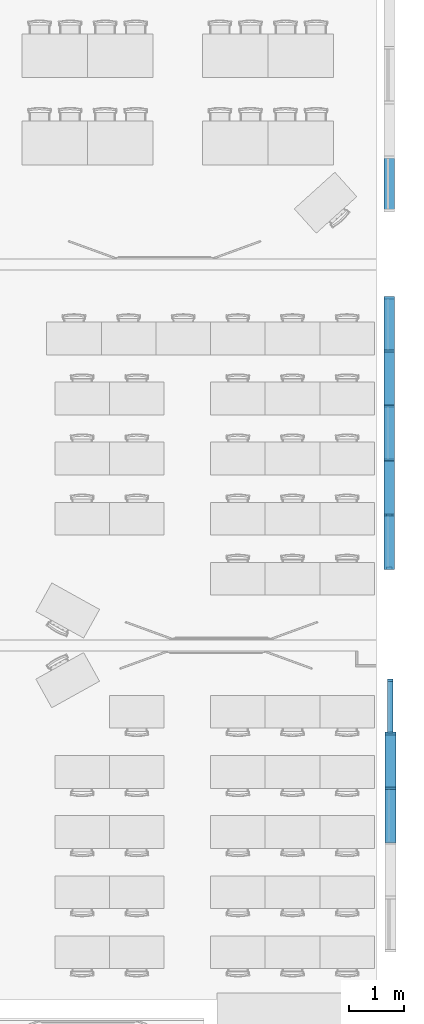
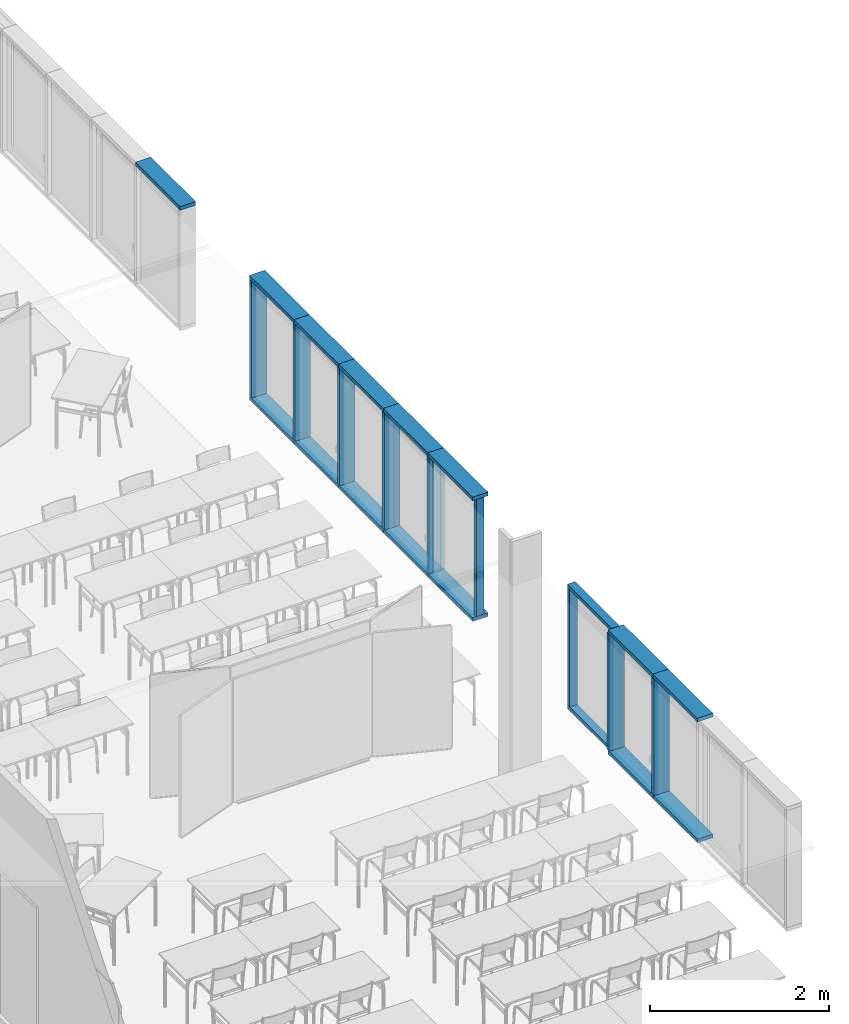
# One storey, part 9 of 44: 60 members, 6 elements without a shape of their own.
"""IFC2X3 building model written with IfcOpenShell, lengths in centimetres."""

from ifc_helpers import new_model, entity, si_unit, converted_unit, derived_unit, direction, frame, frame_2d, origin, origin_2d_with_axis, place, context, subcontext, project, spatial, rectangle, extrude, material, type_object, element, aggregate, save


model = new_model("IFC2X3")

# Units and contexts
model_context = context("Model", 3, precision=0.001, world=origin(), true_north=direction((6.12303176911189e-17, 1.0)))
body_context = subcontext(model_context, "Body", "Model", "MODEL_VIEW")
ifc_project = project(units=[si_unit("LENGTHUNIT", "METRE", prefix="CENTI"), si_unit("AREAUNIT", "SQUARE_METRE"), si_unit("VOLUMEUNIT", "CUBIC_METRE"), converted_unit("PLANEANGLEUNIT", "DEGREE", entity("IfcRatioMeasure", 0.0174532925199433), si_unit("PLANEANGLEUNIT", "RADIAN"), dimensions=[0, 0, 0, 0, 0, 0, 0]), si_unit("MASSUNIT", "GRAM", prefix="KILO"), si_unit("TIMEUNIT", "SECOND"), si_unit("FREQUENCYUNIT", "HERTZ"), si_unit("THERMODYNAMICTEMPERATUREUNIT", "DEGREE_CELSIUS"), derived_unit("THERMALTRANSMITTANCEUNIT", [(si_unit("MASSUNIT", "GRAM", prefix="KILO"), 1), (si_unit("THERMODYNAMICTEMPERATUREUNIT", "KELVIN"), -1), (si_unit("TIMEUNIT", "SECOND"), -3)]), derived_unit("VOLUMETRICFLOWRATEUNIT", [(si_unit("LENGTHUNIT", "METRE"), 3), (si_unit("TIMEUNIT", "SECOND"), -1)]), si_unit("ELECTRICCURRENTUNIT", "AMPERE"), si_unit("ELECTRICVOLTAGEUNIT", "VOLT"), si_unit("POWERUNIT", "WATT"), si_unit("FORCEUNIT", "NEWTON", prefix="KILO"), si_unit("ILLUMINANCEUNIT", "LUX"), si_unit("LUMINOUSFLUXUNIT", "LUMEN"), si_unit("LUMINOUSINTENSITYUNIT", "CANDELA"), derived_unit("USERDEFINED", [(si_unit("MASSUNIT", "GRAM", prefix="KILO"), -1), (si_unit("LENGTHUNIT", "METRE"), -2), (si_unit("TIMEUNIT", "SECOND"), 3), (si_unit("LUMINOUSFLUXUNIT", "LUMEN"), 1)]), derived_unit("LINEARVELOCITYUNIT", [(si_unit("LENGTHUNIT", "METRE"), 1), (si_unit("TIMEUNIT", "SECOND"), -1)]), si_unit("PRESSUREUNIT", "PASCAL"), derived_unit("USERDEFINED", [(si_unit("LENGTHUNIT", "METRE"), -2), (si_unit("MASSUNIT", "GRAM", prefix="KILO"), 1), (si_unit("TIMEUNIT", "SECOND"), -2)])], contexts=[model_context])

# Site, building, storey
site_placement = place(None, frame((8.62739174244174, -249.285249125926, 0.0)))
site = spatial("IfcSite", under=ifc_project, at=site_placement, Name="Default", CompositionType="ELEMENT")
building_placement = place(site_placement, origin())
building = spatial("IfcBuilding", under=site, at=building_placement, CompositionType="ELEMENT")
storey_placement = place(building_placement, frame((0.0, 0.0, 343.0)))
storey = spatial("IfcBuildingStorey", under=building, at=storey_placement, Name="R+1", CompositionType="ELEMENT", Elevation=343.0)

# Curtain wall, member
curtain_wall_type = type_object("IfcCurtainWallType", Name="Mur-rideau:Simple panneau", PredefinedType="NOTDEFINED")
curtain_wall_1_placement = place(storey_placement, frame((0.0, 0.0, -343.0)))
curtain_wall_1 = element("IfcCurtainWall", 1, at=curtain_wall_1_placement, inside=storey, type_object=curtain_wall_type, Name="Mur-rideau:Simple panneau", ObjectType="Mur-rideau:Simple panneau")
ifc_material = material(Name="Plastique, blanc opaque")
member_1_placement = place(curtain_wall_1_placement, frame((0.0, 0.0, 343.0)))
member_1 = element("IfcMember", 2, at=member_1_placement, material=ifc_material, Name="Mur-rideau:Simple panneau", ObjectType="Mur-rideau:Simple panneau", context=body_context, shape_type="SweptSolid", body=[
    extrude(rectangle(XDim=4.99999999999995, YDim=20.0000000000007, at=origin_2d_with_axis()), frame((4001.90482776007, 4096.58270074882, 275.499999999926), z_axis=(0.0, 1.0, 0.0), x_axis=(0.0, 0.0, -1.0)), (0.0, 0.0, 1.0), 100.000000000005),
])
aggregate(curtain_wall_1, [member_1])

# Curtain wall, members
curtain_wall_2_placement = place(storey_placement, frame((0.0, 0.0, -343.0)))
curtain_wall_2 = element("IfcCurtainWall", 3, at=curtain_wall_2_placement, inside=storey, type_object=curtain_wall_type, Name="Mur-rideau:Simple panneau", ObjectType="Mur-rideau:Simple panneau")
member_2_placement = place(curtain_wall_2_placement, frame((0.0, 0.0, 343.0)))
member_2 = element("IfcMember", 4, at=member_2_placement, material=ifc_material, Name="Mur-rideau:Simple panneau", ObjectType="Mur-rideau:Simple panneau", context=body_context, shape_type="SweptSolid", body=[
    extrude(rectangle(XDim=9.99999999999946, YDim=5.00000000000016, at=frame_2d((0.0, 2.16715534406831e-13), x_axis=(1.0, 0.0))), frame((4003.90482781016, 3239.18519336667, 273.0), z_axis=(0.0, 0.0, -1.0), x_axis=(-1.0, 0.0, 0.0)), (0.0, 0.0, 1.0), 160.0),
])
member_3_placement = place(curtain_wall_2_placement, frame((0.0, 0.0, 343.0)))
member_3 = element("IfcMember", 5, at=member_3_placement, material=ifc_material, Name="Mur-rideau:Simple panneau", ObjectType="Mur-rideau:Simple panneau", context=body_context, shape_type="SweptSolid", body=[
    extrude(rectangle(XDim=5.0, YDim=9.99999999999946, at=frame_2d((-2.70894418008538e-14, 0.0), x_axis=(1.0, 0.0))), frame((4003.90482781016, 3241.68519336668, 110.499999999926), z_axis=(0.0, -1.0, 0.0), x_axis=(0.0, 0.0, -1.0)), (0.0, 0.0, 1.0), 99.9999999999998),
])
member_4_placement = place(curtain_wall_2_placement, frame((0.0, 0.0, 343.0)))
member_4 = element("IfcMember", 6, at=member_4_placement, material=ifc_material, Name="Mur-rideau:Simple panneau", ObjectType="Mur-rideau:Simple panneau", context=body_context, shape_type="SweptSolid", body=[
    extrude(rectangle(XDim=20.0000000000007, YDim=4.99999999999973, at=origin_2d_with_axis()), frame((4003.90482781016, 3041.68519336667, 113.0), z_axis=(0.0, 0.0, 1.0), x_axis=(-1.0, 0.0, 0.0)), (0.0, 0.0, 1.0), 160.0),
])
member_5_placement = place(curtain_wall_2_placement, frame((0.0, 0.0, 343.0)))
member_5 = element("IfcMember", 7, at=member_5_placement, material=ifc_material, Name="Mur-rideau:Simple panneau", ObjectType="Mur-rideau:Simple panneau", context=body_context, shape_type="SweptSolid", body=[
    extrude(rectangle(XDim=20.0000000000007, YDim=4.99999999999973, at=origin_2d_with_axis()), frame((4003.90482781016, 3141.68519336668, 113.0), z_axis=(0.0, 0.0, 1.0), x_axis=(-1.0, 0.0, 0.0)), (0.0, 0.0, 1.0), 160.0),
])
member_6_placement = place(curtain_wall_2_placement, frame((0.0, 0.0, 343.0)))
member_6 = element("IfcMember", 8, at=member_6_placement, material=ifc_material, Name="Mur-rideau:Simple panneau", ObjectType="Mur-rideau:Simple panneau", context=body_context, shape_type="SweptSolid", body=[
    extrude(rectangle(XDim=5.0, YDim=20.0000000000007, at=frame_2d((-2.70894418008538e-14, 0.0), x_axis=(1.0, 0.0))), frame((4003.90482781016, 3041.68519336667, 110.499999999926), z_axis=(0.0, -1.0, 0.0), x_axis=(0.0, 0.0, -1.0)), (0.0, 0.0, 1.0), 100.0),
])
member_7_placement = place(curtain_wall_2_placement, frame((0.0, 0.0, 343.0)))
member_7 = element("IfcMember", 9, at=member_7_placement, material=ifc_material, Name="Mur-rideau:Simple panneau", ObjectType="Mur-rideau:Simple panneau", context=body_context, shape_type="SweptSolid", body=[
    extrude(rectangle(XDim=5.0, YDim=20.0000000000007, at=frame_2d((-2.70894418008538e-14, 0.0), x_axis=(1.0, 0.0))), frame((4003.90482781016, 3141.68519336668, 110.499999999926), z_axis=(0.0, -1.0, 0.0), x_axis=(0.0, 0.0, -1.0)), (0.0, 0.0, 1.0), 99.9999999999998),
])
member_8_placement = place(curtain_wall_2_placement, frame((0.0, 0.0, 343.0)))
member_8 = element("IfcMember", 10, at=member_8_placement, material=ifc_material, Name="Mur-rideau:Simple panneau", ObjectType="Mur-rideau:Simple panneau", context=body_context, shape_type="SweptSolid", body=[
    extrude(rectangle(XDim=4.99999999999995, YDim=20.0000000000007, at=origin_2d_with_axis()), frame((4003.90482781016, 2941.68519336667, 275.499999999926), z_axis=(0.0, 1.0, 0.0), x_axis=(0.0, 0.0, -1.0)), (0.0, 0.0, 1.0), 100.0),
])
member_9_placement = place(curtain_wall_2_placement, frame((0.0, 0.0, 343.0)))
member_9 = element("IfcMember", 11, at=member_9_placement, material=ifc_material, Name="Mur-rideau:Simple panneau", ObjectType="Mur-rideau:Simple panneau", context=body_context, shape_type="SweptSolid", body=[
    extrude(rectangle(XDim=4.99999999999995, YDim=20.0000000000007, at=origin_2d_with_axis()), frame((4003.90482781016, 3041.68519336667, 275.499999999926), z_axis=(0.0, 1.0, 0.0), x_axis=(0.0, 0.0, -1.0)), (0.0, 0.0, 1.0), 99.9999999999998),
])
member_10_placement = place(curtain_wall_2_placement, frame((0.0, 0.0, 343.0)))
member_10 = element("IfcMember", 12, at=member_10_placement, material=ifc_material, Name="Mur-rideau:Simple panneau", ObjectType="Mur-rideau:Simple panneau", context=body_context, shape_type="SweptSolid", body=[
    extrude(rectangle(XDim=4.99999999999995, YDim=9.99999999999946, at=origin_2d_with_axis()), frame((4003.90482781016, 3141.68519336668, 275.499999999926), z_axis=(0.0, 1.0, 0.0), x_axis=(0.0, 0.0, -1.0)), (0.0, 0.0, 1.0), 99.9999999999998),
])
aggregate(curtain_wall_2, [member_2, member_3, member_4, member_5, member_6, member_7, member_8, member_9, member_10])

curtain_wall_3_placement = place(storey_placement, frame((0.0, 0.0, -343.0)))
curtain_wall_3 = element("IfcCurtainWall", 13, at=curtain_wall_3_placement, inside=storey, type_object=curtain_wall_type, Name="Mur-rideau:Simple panneau", ObjectType="Mur-rideau:Simple panneau")
member_11_placement = place(curtain_wall_3_placement, frame((0.0, 0.0, 343.0)))
member_11 = element("IfcMember", 14, at=member_11_placement, material=ifc_material, Name="Mur-rideau:Simple panneau", ObjectType="Mur-rideau:Simple panneau", context=body_context, shape_type="SweptSolid", body=[
    extrude(rectangle(XDim=20.0000000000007, YDim=4.99999999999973, at=frame_2d((0.0, -4.33209024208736e-13), x_axis=(1.0, 0.0))), frame((4001.90482776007, 3939.18519336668, 273.0), z_axis=(0.0, 0.0, -1.0), x_axis=(-1.0, 0.0, 0.0)), (0.0, 0.0, 1.0), 160.0),
])
member_12_placement = place(curtain_wall_3_placement, frame((0.0, 0.0, 343.0)))
member_12 = element("IfcMember", 15, at=member_12_placement, material=ifc_material, Name="Mur-rideau:Simple panneau", ObjectType="Mur-rideau:Simple panneau", context=body_context, shape_type="SweptSolid", body=[
    extrude(rectangle(XDim=4.99999999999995, YDim=20.0000000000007, at=origin_2d_with_axis()), frame((4001.90482776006, 3441.68519336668, 275.499999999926), z_axis=(0.0, 1.0, 0.0), x_axis=(0.0, 0.0, -1.0)), (0.0, 0.0, 1.0), 100.000000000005),
])
member_13_placement = place(curtain_wall_3_placement, frame((0.0, 0.0, 343.0)))
member_13 = element("IfcMember", 16, at=member_13_placement, material=ifc_material, Name="Mur-rideau:Simple panneau", ObjectType="Mur-rideau:Simple panneau", context=body_context, shape_type="SweptSolid", body=[
    extrude(rectangle(XDim=9.99999999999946, YDim=5.00000000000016, at=frame_2d((0.0, 2.16715534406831e-13), x_axis=(1.0, 0.0))), frame((4001.90482776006, 3444.18519336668, 113.0), z_axis=(0.0, 0.0, 1.0), x_axis=(-1.0, 0.0, 0.0)), (0.0, 0.0, 1.0), 160.0),
])
member_14_placement = place(curtain_wall_3_placement, frame((0.0, 0.0, 343.0)))
member_14 = element("IfcMember", 17, at=member_14_placement, material=ifc_material, Name="Mur-rideau:Simple panneau", ObjectType="Mur-rideau:Simple panneau", context=body_context, shape_type="SweptSolid", body=[
    extrude(rectangle(XDim=5.0, YDim=20.0000000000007, at=frame_2d((-2.70894418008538e-14, 0.0), x_axis=(1.0, 0.0))), frame((4001.90482776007, 3941.68519336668, 110.499999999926), z_axis=(0.0, -1.0, 0.0), x_axis=(0.0, 0.0, -1.0)), (0.0, 0.0, 1.0), 99.9999999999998),
])
member_15_placement = place(curtain_wall_3_placement, frame((0.0, 0.0, 343.0)))
member_15 = element("IfcMember", 18, at=member_15_placement, material=ifc_material, Name="Mur-rideau:Simple panneau", ObjectType="Mur-rideau:Simple panneau", context=body_context, shape_type="SweptSolid", body=[
    extrude(rectangle(XDim=9.99999999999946, YDim=4.99999999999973, at=origin_2d_with_axis()), frame((4001.90482776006, 3541.68519336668, 113.0), z_axis=(0.0, 0.0, 1.0), x_axis=(-1.0, 0.0, 0.0)), (0.0, 0.0, 1.0), 160.0),
])
member_16_placement = place(curtain_wall_3_placement, frame((0.0, 0.0, 343.0)))
member_16 = element("IfcMember", 19, at=member_16_placement, material=ifc_material, Name="Mur-rideau:Simple panneau", ObjectType="Mur-rideau:Simple panneau", context=body_context, shape_type="SweptSolid", body=[
    extrude(rectangle(XDim=20.0000000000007, YDim=4.99999999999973, at=origin_2d_with_axis()), frame((4001.90482776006, 3641.68519336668, 113.0), z_axis=(0.0, 0.0, 1.0), x_axis=(-1.0, 0.0, 0.0)), (0.0, 0.0, 1.0), 160.0),
])
member_17_placement = place(curtain_wall_3_placement, frame((0.0, 0.0, 343.0)))
member_17 = element("IfcMember", 20, at=member_17_placement, material=ifc_material, Name="Mur-rideau:Simple panneau", ObjectType="Mur-rideau:Simple panneau", context=body_context, shape_type="SweptSolid", body=[
    extrude(rectangle(XDim=20.0000000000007, YDim=4.99999999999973, at=origin_2d_with_axis()), frame((4001.90482776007, 3741.68519336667, 113.0), z_axis=(0.0, 0.0, 1.0), x_axis=(-1.0, 0.0, 0.0)), (0.0, 0.0, 1.0), 160.0),
])
member_18_placement = place(curtain_wall_3_placement, frame((0.0, 0.0, 343.0)))
member_18 = element("IfcMember", 21, at=member_18_placement, material=ifc_material, Name="Mur-rideau:Simple panneau", ObjectType="Mur-rideau:Simple panneau", context=body_context, shape_type="SweptSolid", body=[
    extrude(rectangle(XDim=20.0000000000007, YDim=4.99999999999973, at=origin_2d_with_axis()), frame((4001.90482776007, 3841.68519336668, 113.0), z_axis=(0.0, 0.0, 1.0), x_axis=(-1.0, 0.0, 0.0)), (0.0, 0.0, 1.0), 160.0),
])
member_19_placement = place(curtain_wall_3_placement, frame((0.0, 0.0, 343.0)))
member_19 = element("IfcMember", 22, at=member_19_placement, material=ifc_material, Name="Mur-rideau:Simple panneau", ObjectType="Mur-rideau:Simple panneau", context=body_context, shape_type="SweptSolid", body=[
    extrude(rectangle(XDim=5.0, YDim=20.0000000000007, at=frame_2d((-2.70894418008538e-14, 0.0), x_axis=(1.0, 0.0))), frame((4001.90482776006, 3541.68519336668, 110.499999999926), z_axis=(0.0, -1.0, 0.0), x_axis=(0.0, 0.0, -1.0)), (0.0, 0.0, 1.0), 100.000000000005),
])
member_20_placement = place(curtain_wall_3_placement, frame((0.0, 0.0, 343.0)))
member_20 = element("IfcMember", 23, at=member_20_placement, material=ifc_material, Name="Mur-rideau:Simple panneau", ObjectType="Mur-rideau:Simple panneau", context=body_context, shape_type="SweptSolid", body=[
    extrude(rectangle(XDim=5.0, YDim=20.0000000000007, at=frame_2d((-2.70894418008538e-14, 0.0), x_axis=(1.0, 0.0))), frame((4001.90482776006, 3641.68519336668, 110.499999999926), z_axis=(0.0, -1.0, 0.0), x_axis=(0.0, 0.0, -1.0)), (0.0, 0.0, 1.0), 99.9999999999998),
])
member_21_placement = place(curtain_wall_3_placement, frame((0.0, 0.0, 343.0)))
member_21 = element("IfcMember", 24, at=member_21_placement, material=ifc_material, Name="Mur-rideau:Simple panneau", ObjectType="Mur-rideau:Simple panneau", context=body_context, shape_type="SweptSolid", body=[
    extrude(rectangle(XDim=5.0, YDim=20.0000000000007, at=frame_2d((-2.70894418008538e-14, 0.0), x_axis=(1.0, 0.0))), frame((4001.90482776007, 3741.68519336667, 110.499999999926), z_axis=(0.0, -1.0, 0.0), x_axis=(0.0, 0.0, -1.0)), (0.0, 0.0, 1.0), 100.0),
])
member_22_placement = place(curtain_wall_3_placement, frame((0.0, 0.0, 343.0)))
member_22 = element("IfcMember", 25, at=member_22_placement, material=ifc_material, Name="Mur-rideau:Simple panneau", ObjectType="Mur-rideau:Simple panneau", context=body_context, shape_type="SweptSolid", body=[
    extrude(rectangle(XDim=5.0, YDim=20.0000000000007, at=frame_2d((-2.70894418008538e-14, 0.0), x_axis=(1.0, 0.0))), frame((4001.90482776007, 3841.68519336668, 110.499999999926), z_axis=(0.0, -1.0, 0.0), x_axis=(0.0, 0.0, -1.0)), (0.0, 0.0, 1.0), 99.9999999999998),
])
member_23_placement = place(curtain_wall_3_placement, frame((0.0, 0.0, 343.0)))
member_23 = element("IfcMember", 26, at=member_23_placement, material=ifc_material, Name="Mur-rideau:Simple panneau", ObjectType="Mur-rideau:Simple panneau", context=body_context, shape_type="SweptSolid", body=[
    extrude(rectangle(XDim=4.99999999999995, YDim=20.0000000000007, at=origin_2d_with_axis()), frame((4001.90482776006, 3541.68519336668, 275.499999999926), z_axis=(0.0, 1.0, 0.0), x_axis=(0.0, 0.0, -1.0)), (0.0, 0.0, 1.0), 99.9999999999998),
])
member_24_placement = place(curtain_wall_3_placement, frame((0.0, 0.0, 343.0)))
member_24 = element("IfcMember", 27, at=member_24_placement, material=ifc_material, Name="Mur-rideau:Simple panneau", ObjectType="Mur-rideau:Simple panneau", context=body_context, shape_type="SweptSolid", body=[
    extrude(rectangle(XDim=4.99999999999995, YDim=20.0000000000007, at=origin_2d_with_axis()), frame((4001.90482776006, 3641.68519336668, 275.499999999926), z_axis=(0.0, 1.0, 0.0), x_axis=(0.0, 0.0, -1.0)), (0.0, 0.0, 1.0), 100.0),
])
member_25_placement = place(curtain_wall_3_placement, frame((0.0, 0.0, 343.0)))
member_25 = element("IfcMember", 28, at=member_25_placement, material=ifc_material, Name="Mur-rideau:Simple panneau", ObjectType="Mur-rideau:Simple panneau", context=body_context, shape_type="SweptSolid", body=[
    extrude(rectangle(XDim=4.99999999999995, YDim=20.0000000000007, at=origin_2d_with_axis()), frame((4001.90482776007, 3741.68519336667, 275.499999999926), z_axis=(0.0, 1.0, 0.0), x_axis=(0.0, 0.0, -1.0)), (0.0, 0.0, 1.0), 99.9999999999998),
])
member_26_placement = place(curtain_wall_3_placement, frame((0.0, 0.0, 343.0)))
member_26 = element("IfcMember", 29, at=member_26_placement, material=ifc_material, Name="Mur-rideau:Simple panneau", ObjectType="Mur-rideau:Simple panneau", context=body_context, shape_type="SweptSolid", body=[
    extrude(rectangle(XDim=4.99999999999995, YDim=20.0000000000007, at=origin_2d_with_axis()), frame((4001.90482776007, 3841.68519336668, 275.499999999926), z_axis=(0.0, 1.0, 0.0), x_axis=(0.0, 0.0, -1.0)), (0.0, 0.0, 1.0), 99.9999999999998),
])
aggregate(curtain_wall_3, [member_11, member_12, member_13, member_14, member_15, member_16, member_17, member_18, member_19, member_20, member_21, member_22, member_23, member_24, member_25, member_26])

curtain_wall_4_placement = place(storey_placement, frame((0.0, 0.0, -343.0)))
curtain_wall_4 = element("IfcCurtainWall", 30, at=curtain_wall_4_placement, inside=storey, type_object=curtain_wall_type, Name="Mur-rideau:Simple panneau", ObjectType="Mur-rideau:Simple panneau")
member_27_placement = place(curtain_wall_4_placement, frame((0.0, 0.0, 343.0)))
member_27 = element("IfcMember", 31, at=member_27_placement, material=ifc_material, Name="Mur-rideau:Simple panneau", ObjectType="Mur-rideau:Simple panneau", context=body_context, shape_type="SweptSolid", body=[
    extrude(rectangle(XDim=9.99999999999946, YDim=5.00000000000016, at=frame_2d((0.0, 2.16715534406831e-13), x_axis=(1.0, 0.0))), frame((4003.90482781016, 3239.18519336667, 273.0), z_axis=(0.0, 0.0, -1.0), x_axis=(-1.0, 0.0, 0.0)), (0.0, 0.0, 1.0), 160.0),
])
member_28_placement = place(curtain_wall_4_placement, frame((0.0, 0.0, 343.0)))
member_28 = element("IfcMember", 32, at=member_28_placement, material=ifc_material, Name="Mur-rideau:Simple panneau", ObjectType="Mur-rideau:Simple panneau", context=body_context, shape_type="SweptSolid", body=[
    extrude(rectangle(XDim=5.0, YDim=9.99999999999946, at=frame_2d((-2.70894418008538e-14, 0.0), x_axis=(1.0, 0.0))), frame((4003.90482781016, 3241.68519336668, 110.499999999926), z_axis=(0.0, -1.0, 0.0), x_axis=(0.0, 0.0, -1.0)), (0.0, 0.0, 1.0), 99.9999999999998),
])
member_29_placement = place(curtain_wall_4_placement, frame((0.0, 0.0, 343.0)))
member_29 = element("IfcMember", 33, at=member_29_placement, material=ifc_material, Name="Mur-rideau:Simple panneau", ObjectType="Mur-rideau:Simple panneau", context=body_context, shape_type="SweptSolid", body=[
    extrude(rectangle(XDim=20.0000000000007, YDim=4.99999999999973, at=origin_2d_with_axis()), frame((4003.90482781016, 3041.68519336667, 113.0), z_axis=(0.0, 0.0, 1.0), x_axis=(-1.0, 0.0, 0.0)), (0.0, 0.0, 1.0), 160.0),
])
member_30_placement = place(curtain_wall_4_placement, frame((0.0, 0.0, 343.0)))
member_30 = element("IfcMember", 34, at=member_30_placement, material=ifc_material, Name="Mur-rideau:Simple panneau", ObjectType="Mur-rideau:Simple panneau", context=body_context, shape_type="SweptSolid", body=[
    extrude(rectangle(XDim=20.0000000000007, YDim=4.99999999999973, at=origin_2d_with_axis()), frame((4003.90482781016, 3141.68519336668, 113.0), z_axis=(0.0, 0.0, 1.0), x_axis=(-1.0, 0.0, 0.0)), (0.0, 0.0, 1.0), 160.0),
])
member_31_placement = place(curtain_wall_4_placement, frame((0.0, 0.0, 343.0)))
member_31 = element("IfcMember", 35, at=member_31_placement, material=ifc_material, Name="Mur-rideau:Simple panneau", ObjectType="Mur-rideau:Simple panneau", context=body_context, shape_type="SweptSolid", body=[
    extrude(rectangle(XDim=5.0, YDim=20.0000000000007, at=frame_2d((-2.70894418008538e-14, 0.0), x_axis=(1.0, 0.0))), frame((4003.90482781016, 3041.68519336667, 110.499999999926), z_axis=(0.0, -1.0, 0.0), x_axis=(0.0, 0.0, -1.0)), (0.0, 0.0, 1.0), 100.0),
])
member_32_placement = place(curtain_wall_4_placement, frame((0.0, 0.0, 343.0)))
member_32 = element("IfcMember", 36, at=member_32_placement, material=ifc_material, Name="Mur-rideau:Simple panneau", ObjectType="Mur-rideau:Simple panneau", context=body_context, shape_type="SweptSolid", body=[
    extrude(rectangle(XDim=5.0, YDim=20.0000000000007, at=frame_2d((-2.70894418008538e-14, 0.0), x_axis=(1.0, 0.0))), frame((4003.90482781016, 3141.68519336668, 110.499999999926), z_axis=(0.0, -1.0, 0.0), x_axis=(0.0, 0.0, -1.0)), (0.0, 0.0, 1.0), 99.9999999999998),
])
member_33_placement = place(curtain_wall_4_placement, frame((0.0, 0.0, 343.0)))
member_33 = element("IfcMember", 37, at=member_33_placement, material=ifc_material, Name="Mur-rideau:Simple panneau", ObjectType="Mur-rideau:Simple panneau", context=body_context, shape_type="SweptSolid", body=[
    extrude(rectangle(XDim=4.99999999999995, YDim=20.0000000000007, at=origin_2d_with_axis()), frame((4003.90482781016, 2941.68519336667, 275.499999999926), z_axis=(0.0, 1.0, 0.0), x_axis=(0.0, 0.0, -1.0)), (0.0, 0.0, 1.0), 100.0),
])
member_34_placement = place(curtain_wall_4_placement, frame((0.0, 0.0, 343.0)))
member_34 = element("IfcMember", 38, at=member_34_placement, material=ifc_material, Name="Mur-rideau:Simple panneau", ObjectType="Mur-rideau:Simple panneau", context=body_context, shape_type="SweptSolid", body=[
    extrude(rectangle(XDim=4.99999999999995, YDim=20.0000000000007, at=origin_2d_with_axis()), frame((4003.90482781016, 3041.68519336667, 275.499999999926), z_axis=(0.0, 1.0, 0.0), x_axis=(0.0, 0.0, -1.0)), (0.0, 0.0, 1.0), 99.9999999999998),
])
member_35_placement = place(curtain_wall_4_placement, frame((0.0, 0.0, 343.0)))
member_35 = element("IfcMember", 39, at=member_35_placement, material=ifc_material, Name="Mur-rideau:Simple panneau", ObjectType="Mur-rideau:Simple panneau", context=body_context, shape_type="SweptSolid", body=[
    extrude(rectangle(XDim=4.99999999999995, YDim=9.99999999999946, at=origin_2d_with_axis()), frame((4003.90482781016, 3141.68519336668, 275.499999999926), z_axis=(0.0, 1.0, 0.0), x_axis=(0.0, 0.0, -1.0)), (0.0, 0.0, 1.0), 99.9999999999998),
])
aggregate(curtain_wall_4, [member_27, member_28, member_29, member_30, member_31, member_32, member_33, member_34, member_35])

curtain_wall_5_placement = place(storey_placement, frame((0.0, 0.0, -343.0)))
curtain_wall_5 = element("IfcCurtainWall", 40, at=curtain_wall_5_placement, inside=storey, type_object=curtain_wall_type, Name="Mur-rideau:Simple panneau", ObjectType="Mur-rideau:Simple panneau")
member_36_placement = place(curtain_wall_5_placement, frame((0.0, 0.0, 343.0)))
member_36 = element("IfcMember", 41, at=member_36_placement, material=ifc_material, Name="Mur-rideau:Simple panneau", ObjectType="Mur-rideau:Simple panneau", context=body_context, shape_type="SweptSolid", body=[
    extrude(rectangle(XDim=20.0000000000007, YDim=4.99999999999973, at=frame_2d((0.0, -4.33209024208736e-13), x_axis=(1.0, 0.0))), frame((4001.90482776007, 3939.18519336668, 273.0), z_axis=(0.0, 0.0, -1.0), x_axis=(-1.0, 0.0, 0.0)), (0.0, 0.0, 1.0), 160.0),
])
member_37_placement = place(curtain_wall_5_placement, frame((0.0, 0.0, 343.0)))
member_37 = element("IfcMember", 42, at=member_37_placement, material=ifc_material, Name="Mur-rideau:Simple panneau", ObjectType="Mur-rideau:Simple panneau", context=body_context, shape_type="SweptSolid", body=[
    extrude(rectangle(XDim=4.99999999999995, YDim=20.0000000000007, at=origin_2d_with_axis()), frame((4001.90482776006, 3441.68519336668, 275.499999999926), z_axis=(0.0, 1.0, 0.0), x_axis=(0.0, 0.0, -1.0)), (0.0, 0.0, 1.0), 100.000000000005),
])
member_38_placement = place(curtain_wall_5_placement, frame((0.0, 0.0, 343.0)))
member_38 = element("IfcMember", 43, at=member_38_placement, material=ifc_material, Name="Mur-rideau:Simple panneau", ObjectType="Mur-rideau:Simple panneau", context=body_context, shape_type="SweptSolid", body=[
    extrude(rectangle(XDim=9.99999999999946, YDim=5.00000000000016, at=frame_2d((0.0, 2.16715534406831e-13), x_axis=(1.0, 0.0))), frame((4001.90482776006, 3444.18519336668, 113.0), z_axis=(0.0, 0.0, 1.0), x_axis=(-1.0, 0.0, 0.0)), (0.0, 0.0, 1.0), 160.0),
])
member_39_placement = place(curtain_wall_5_placement, frame((0.0, 0.0, 343.0)))
member_39 = element("IfcMember", 44, at=member_39_placement, material=ifc_material, Name="Mur-rideau:Simple panneau", ObjectType="Mur-rideau:Simple panneau", context=body_context, shape_type="SweptSolid", body=[
    extrude(rectangle(XDim=5.0, YDim=20.0000000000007, at=frame_2d((-2.70894418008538e-14, 0.0), x_axis=(1.0, 0.0))), frame((4001.90482776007, 3941.68519336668, 110.499999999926), z_axis=(0.0, -1.0, 0.0), x_axis=(0.0, 0.0, -1.0)), (0.0, 0.0, 1.0), 99.9999999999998),
])
member_40_placement = place(curtain_wall_5_placement, frame((0.0, 0.0, 343.0)))
member_40 = element("IfcMember", 45, at=member_40_placement, material=ifc_material, Name="Mur-rideau:Simple panneau", ObjectType="Mur-rideau:Simple panneau", context=body_context, shape_type="SweptSolid", body=[
    extrude(rectangle(XDim=20.0000000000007, YDim=4.99999999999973, at=origin_2d_with_axis()), frame((4001.90482776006, 3541.68519336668, 113.0), z_axis=(0.0, 0.0, 1.0), x_axis=(-1.0, 0.0, 0.0)), (0.0, 0.0, 1.0), 160.0),
])
member_41_placement = place(curtain_wall_5_placement, frame((0.0, 0.0, 343.0)))
member_41 = element("IfcMember", 46, at=member_41_placement, material=ifc_material, Name="Mur-rideau:Simple panneau", ObjectType="Mur-rideau:Simple panneau", context=body_context, shape_type="SweptSolid", body=[
    extrude(rectangle(XDim=20.0000000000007, YDim=4.99999999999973, at=origin_2d_with_axis()), frame((4001.90482776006, 3641.68519336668, 113.0), z_axis=(0.0, 0.0, 1.0), x_axis=(-1.0, 0.0, 0.0)), (0.0, 0.0, 1.0), 160.0),
])
member_42_placement = place(curtain_wall_5_placement, frame((0.0, 0.0, 343.0)))
member_42 = element("IfcMember", 47, at=member_42_placement, material=ifc_material, Name="Mur-rideau:Simple panneau", ObjectType="Mur-rideau:Simple panneau", context=body_context, shape_type="SweptSolid", body=[
    extrude(rectangle(XDim=20.0000000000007, YDim=4.99999999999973, at=origin_2d_with_axis()), frame((4001.90482776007, 3741.68519336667, 113.0), z_axis=(0.0, 0.0, 1.0), x_axis=(-1.0, 0.0, 0.0)), (0.0, 0.0, 1.0), 160.0),
])
member_43_placement = place(curtain_wall_5_placement, frame((0.0, 0.0, 343.0)))
member_43 = element("IfcMember", 48, at=member_43_placement, material=ifc_material, Name="Mur-rideau:Simple panneau", ObjectType="Mur-rideau:Simple panneau", context=body_context, shape_type="SweptSolid", body=[
    extrude(rectangle(XDim=20.0000000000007, YDim=4.99999999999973, at=origin_2d_with_axis()), frame((4001.90482776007, 3841.68519336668, 113.0), z_axis=(0.0, 0.0, 1.0), x_axis=(-1.0, 0.0, 0.0)), (0.0, 0.0, 1.0), 160.0),
])
member_44_placement = place(curtain_wall_5_placement, frame((0.0, 0.0, 343.0)))
member_44 = element("IfcMember", 49, at=member_44_placement, material=ifc_material, Name="Mur-rideau:Simple panneau", ObjectType="Mur-rideau:Simple panneau", context=body_context, shape_type="SweptSolid", body=[
    extrude(rectangle(XDim=5.0, YDim=20.0000000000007, at=frame_2d((-2.70894418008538e-14, 0.0), x_axis=(1.0, 0.0))), frame((4001.90482776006, 3541.68519336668, 110.499999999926), z_axis=(0.0, -1.0, 0.0), x_axis=(0.0, 0.0, -1.0)), (0.0, 0.0, 1.0), 100.000000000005),
])
member_45_placement = place(curtain_wall_5_placement, frame((0.0, 0.0, 343.0)))
member_45 = element("IfcMember", 50, at=member_45_placement, material=ifc_material, Name="Mur-rideau:Simple panneau", ObjectType="Mur-rideau:Simple panneau", context=body_context, shape_type="SweptSolid", body=[
    extrude(rectangle(XDim=5.0, YDim=20.0000000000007, at=frame_2d((-2.70894418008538e-14, 0.0), x_axis=(1.0, 0.0))), frame((4001.90482776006, 3641.68519336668, 110.499999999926), z_axis=(0.0, -1.0, 0.0), x_axis=(0.0, 0.0, -1.0)), (0.0, 0.0, 1.0), 99.9999999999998),
])
member_46_placement = place(curtain_wall_5_placement, frame((0.0, 0.0, 343.0)))
member_46 = element("IfcMember", 51, at=member_46_placement, material=ifc_material, Name="Mur-rideau:Simple panneau", ObjectType="Mur-rideau:Simple panneau", context=body_context, shape_type="SweptSolid", body=[
    extrude(rectangle(XDim=5.0, YDim=20.0000000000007, at=frame_2d((-2.70894418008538e-14, 0.0), x_axis=(1.0, 0.0))), frame((4001.90482776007, 3741.68519336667, 110.499999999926), z_axis=(0.0, -1.0, 0.0), x_axis=(0.0, 0.0, -1.0)), (0.0, 0.0, 1.0), 100.0),
])
member_47_placement = place(curtain_wall_5_placement, frame((0.0, 0.0, 343.0)))
member_47 = element("IfcMember", 52, at=member_47_placement, material=ifc_material, Name="Mur-rideau:Simple panneau", ObjectType="Mur-rideau:Simple panneau", context=body_context, shape_type="SweptSolid", body=[
    extrude(rectangle(XDim=5.0, YDim=20.0000000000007, at=frame_2d((-2.70894418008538e-14, 0.0), x_axis=(1.0, 0.0))), frame((4001.90482776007, 3841.68519336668, 110.499999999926), z_axis=(0.0, -1.0, 0.0), x_axis=(0.0, 0.0, -1.0)), (0.0, 0.0, 1.0), 99.9999999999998),
])
member_48_placement = place(curtain_wall_5_placement, frame((0.0, 0.0, 343.0)))
member_48 = element("IfcMember", 53, at=member_48_placement, material=ifc_material, Name="Mur-rideau:Simple panneau", ObjectType="Mur-rideau:Simple panneau", context=body_context, shape_type="SweptSolid", body=[
    extrude(rectangle(XDim=4.99999999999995, YDim=20.0000000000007, at=origin_2d_with_axis()), frame((4001.90482776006, 3541.68519336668, 275.499999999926), z_axis=(0.0, 1.0, 0.0), x_axis=(0.0, 0.0, -1.0)), (0.0, 0.0, 1.0), 99.9999999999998),
])
member_49_placement = place(curtain_wall_5_placement, frame((0.0, 0.0, 343.0)))
member_49 = element("IfcMember", 54, at=member_49_placement, material=ifc_material, Name="Mur-rideau:Simple panneau", ObjectType="Mur-rideau:Simple panneau", context=body_context, shape_type="SweptSolid", body=[
    extrude(rectangle(XDim=4.99999999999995, YDim=20.0000000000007, at=origin_2d_with_axis()), frame((4001.90482776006, 3641.68519336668, 275.499999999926), z_axis=(0.0, 1.0, 0.0), x_axis=(0.0, 0.0, -1.0)), (0.0, 0.0, 1.0), 100.0),
])
member_50_placement = place(curtain_wall_5_placement, frame((0.0, 0.0, 343.0)))
member_50 = element("IfcMember", 55, at=member_50_placement, material=ifc_material, Name="Mur-rideau:Simple panneau", ObjectType="Mur-rideau:Simple panneau", context=body_context, shape_type="SweptSolid", body=[
    extrude(rectangle(XDim=4.99999999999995, YDim=20.0000000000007, at=origin_2d_with_axis()), frame((4001.90482776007, 3741.68519336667, 275.499999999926), z_axis=(0.0, 1.0, 0.0), x_axis=(0.0, 0.0, -1.0)), (0.0, 0.0, 1.0), 99.9999999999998),
])
member_51_placement = place(curtain_wall_5_placement, frame((0.0, 0.0, 343.0)))
member_51 = element("IfcMember", 56, at=member_51_placement, material=ifc_material, Name="Mur-rideau:Simple panneau", ObjectType="Mur-rideau:Simple panneau", context=body_context, shape_type="SweptSolid", body=[
    extrude(rectangle(XDim=4.99999999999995, YDim=20.0000000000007, at=origin_2d_with_axis()), frame((4001.90482776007, 3841.68519336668, 275.499999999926), z_axis=(0.0, 1.0, 0.0), x_axis=(0.0, 0.0, -1.0)), (0.0, 0.0, 1.0), 99.9999999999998),
])
aggregate(curtain_wall_5, [member_36, member_37, member_38, member_39, member_40, member_41, member_42, member_43, member_44, member_45, member_46, member_47, member_48, member_49, member_50, member_51])

curtain_wall_6_placement = place(storey_placement, frame((0.0, 0.0, -343.0)))
curtain_wall_6 = element("IfcCurtainWall", 57, at=curtain_wall_6_placement, inside=storey, type_object=curtain_wall_type, Name="Mur-rideau:Simple panneau", ObjectType="Mur-rideau:Simple panneau")
member_52_placement = place(curtain_wall_6_placement, frame((0.0, 0.0, 343.0)))
member_52 = element("IfcMember", 58, at=member_52_placement, material=ifc_material, Name="Mur-rideau:Simple panneau", ObjectType="Mur-rideau:Simple panneau", context=body_context, shape_type="SweptSolid", body=[
    extrude(rectangle(XDim=9.99999999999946, YDim=5.00000000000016, at=frame_2d((0.0, 2.16715534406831e-13), x_axis=(1.0, 0.0))), frame((4003.90482781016, 3239.18519336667, 273.0), z_axis=(0.0, 0.0, -1.0), x_axis=(-1.0, 0.0, 0.0)), (0.0, 0.0, 1.0), 160.0),
])
member_53_placement = place(curtain_wall_6_placement, frame((0.0, 0.0, 343.0)))
member_53 = element("IfcMember", 59, at=member_53_placement, material=ifc_material, Name="Mur-rideau:Simple panneau", ObjectType="Mur-rideau:Simple panneau", context=body_context, shape_type="SweptSolid", body=[
    extrude(rectangle(XDim=5.0, YDim=9.99999999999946, at=frame_2d((-2.70894418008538e-14, 0.0), x_axis=(1.0, 0.0))), frame((4003.90482781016, 3241.68519336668, 110.499999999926), z_axis=(0.0, -1.0, 0.0), x_axis=(0.0, 0.0, -1.0)), (0.0, 0.0, 1.0), 99.9999999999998),
])
member_54_placement = place(curtain_wall_6_placement, frame((0.0, 0.0, 343.0)))
member_54 = element("IfcMember", 60, at=member_54_placement, material=ifc_material, Name="Mur-rideau:Simple panneau", ObjectType="Mur-rideau:Simple panneau", context=body_context, shape_type="SweptSolid", body=[
    extrude(rectangle(XDim=20.0000000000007, YDim=4.99999999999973, at=origin_2d_with_axis()), frame((4003.90482781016, 3041.68519336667, 113.0), z_axis=(0.0, 0.0, 1.0), x_axis=(-1.0, 0.0, 0.0)), (0.0, 0.0, 1.0), 160.0),
])
member_55_placement = place(curtain_wall_6_placement, frame((0.0, 0.0, 343.0)))
member_55 = element("IfcMember", 61, at=member_55_placement, material=ifc_material, Name="Mur-rideau:Simple panneau", ObjectType="Mur-rideau:Simple panneau", context=body_context, shape_type="SweptSolid", body=[
    extrude(rectangle(XDim=20.0000000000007, YDim=4.99999999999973, at=origin_2d_with_axis()), frame((4003.90482781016, 3141.68519336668, 113.0), z_axis=(0.0, 0.0, 1.0), x_axis=(-1.0, 0.0, 0.0)), (0.0, 0.0, 1.0), 160.0),
])
member_56_placement = place(curtain_wall_6_placement, frame((0.0, 0.0, 343.0)))
member_56 = element("IfcMember", 62, at=member_56_placement, material=ifc_material, Name="Mur-rideau:Simple panneau", ObjectType="Mur-rideau:Simple panneau", context=body_context, shape_type="SweptSolid", body=[
    extrude(rectangle(XDim=5.0, YDim=20.0000000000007, at=frame_2d((-2.70894418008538e-14, 0.0), x_axis=(1.0, 0.0))), frame((4003.90482781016, 3041.68519336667, 110.499999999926), z_axis=(0.0, -1.0, 0.0), x_axis=(0.0, 0.0, -1.0)), (0.0, 0.0, 1.0), 100.0),
])
member_57_placement = place(curtain_wall_6_placement, frame((0.0, 0.0, 343.0)))
member_57 = element("IfcMember", 63, at=member_57_placement, material=ifc_material, Name="Mur-rideau:Simple panneau", ObjectType="Mur-rideau:Simple panneau", context=body_context, shape_type="SweptSolid", body=[
    extrude(rectangle(XDim=5.0, YDim=20.0000000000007, at=frame_2d((-2.70894418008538e-14, 0.0), x_axis=(1.0, 0.0))), frame((4003.90482781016, 3141.68519336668, 110.499999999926), z_axis=(0.0, -1.0, 0.0), x_axis=(0.0, 0.0, -1.0)), (0.0, 0.0, 1.0), 99.9999999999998),
])
member_58_placement = place(curtain_wall_6_placement, frame((0.0, 0.0, 343.0)))
member_58 = element("IfcMember", 64, at=member_58_placement, material=ifc_material, Name="Mur-rideau:Simple panneau", ObjectType="Mur-rideau:Simple panneau", context=body_context, shape_type="SweptSolid", body=[
    extrude(rectangle(XDim=4.99999999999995, YDim=20.0000000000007, at=origin_2d_with_axis()), frame((4003.90482781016, 2941.68519336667, 275.499999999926), z_axis=(0.0, 1.0, 0.0), x_axis=(0.0, 0.0, -1.0)), (0.0, 0.0, 1.0), 100.0),
])
member_59_placement = place(curtain_wall_6_placement, frame((0.0, 0.0, 343.0)))
member_59 = element("IfcMember", 65, at=member_59_placement, material=ifc_material, Name="Mur-rideau:Simple panneau", ObjectType="Mur-rideau:Simple panneau", context=body_context, shape_type="SweptSolid", body=[
    extrude(rectangle(XDim=4.99999999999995, YDim=20.0000000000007, at=origin_2d_with_axis()), frame((4003.90482781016, 3041.68519336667, 275.499999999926), z_axis=(0.0, 1.0, 0.0), x_axis=(0.0, 0.0, -1.0)), (0.0, 0.0, 1.0), 99.9999999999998),
])
member_60_placement = place(curtain_wall_6_placement, frame((0.0, 0.0, 343.0)))
member_60 = element("IfcMember", 66, at=member_60_placement, material=ifc_material, Name="Mur-rideau:Simple panneau", ObjectType="Mur-rideau:Simple panneau", context=body_context, shape_type="SweptSolid", body=[
    extrude(rectangle(XDim=4.99999999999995, YDim=9.99999999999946, at=origin_2d_with_axis()), frame((4003.90482781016, 3141.68519336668, 275.499999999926), z_axis=(0.0, 1.0, 0.0), x_axis=(0.0, 0.0, -1.0)), (0.0, 0.0, 1.0), 99.9999999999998),
])
aggregate(curtain_wall_6, [member_52, member_53, member_54, member_55, member_56, member_57, member_58, member_59, member_60])

save(model, "model.ifc")
